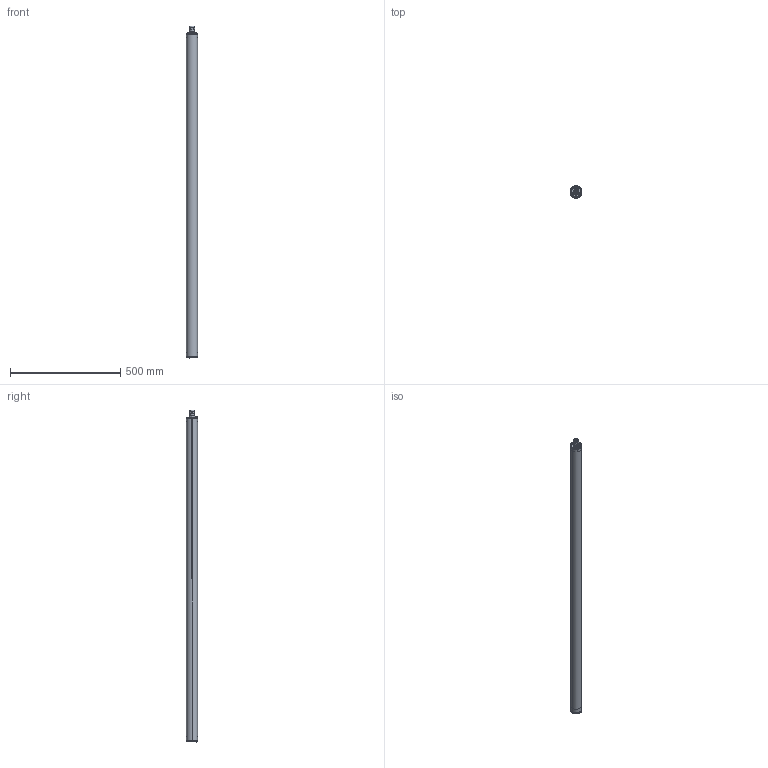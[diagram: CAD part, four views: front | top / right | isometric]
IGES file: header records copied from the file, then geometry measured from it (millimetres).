
Start section: SolidWorks IGES file using analytic representation for surfaces
Global section: file name: C:\Users\JoãoSantos\Desktop\02_3D.2D\01_2020\02_Linear\02_Tubo\01_Tubo_50\Normal\TUBO_50_1472.IGS; native system: SolidWorks 2020; preprocessor: SolidWorks 2020; author: JoãoSantos; date: 201020.171010; units: millimetre
Bounding box: 53 x 53 x 1504.7 mm (x, y, z)
Surface area: 482675.4 mm2 (no closed solid volume)
Topology: 0 solids, 0 shells, 1394 faces, 12359 edges, 12299 vertices
Faces by surface type: revolution 740, bspline 654
